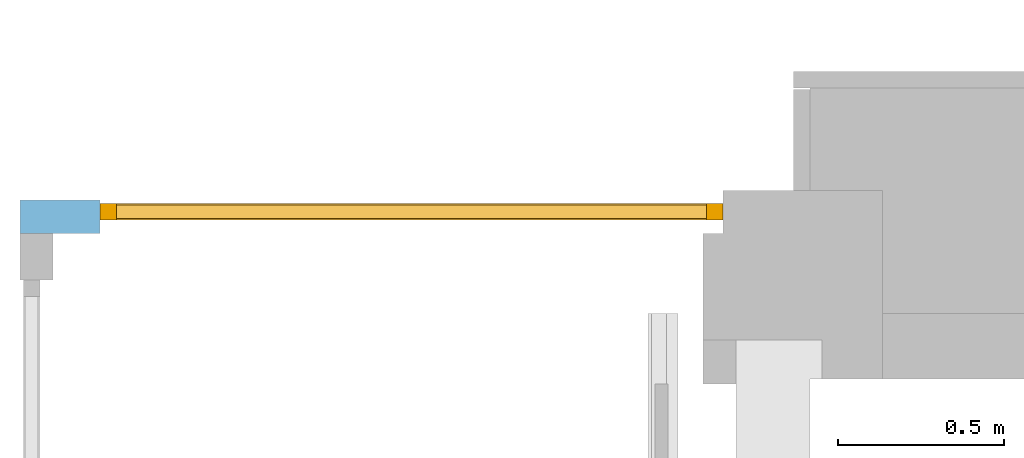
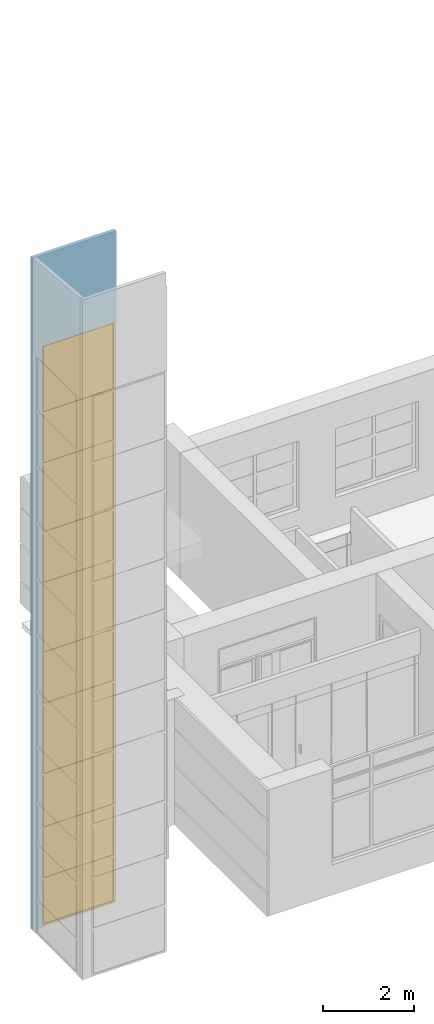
# One storey, part 61 of 66: 1 window, 2 openings, plus 1 element that does not belong to this part.
"""IFC2X3 building model written with IfcOpenShell, lengths in millimetres."""

from ifc_helpers import new_model, entity, si_unit, converted_unit, derived_unit, direction, frame, frame_2d, origin, place, context, subcontext, project, spatial, rectangle, extrude, face_set, faceted_brep, surface_model, source, transform, mapped, material, material_list, layer, layer_set, layer_usage, type_object, type_shapes, element, fill, save


model = new_model("IFC2X3")

# Units and contexts
model_context = context("Model", 3, precision=0.01, world=origin(), true_north=direction((6.12303176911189e-17, 1.0)))
body_context = subcontext(model_context, "Body", "Model", "MODEL_VIEW")
ifc_project = project(units=[si_unit("LENGTHUNIT", "METRE", prefix="MILLI"), si_unit("AREAUNIT", "SQUARE_METRE"), si_unit("VOLUMEUNIT", "CUBIC_METRE"), converted_unit("PLANEANGLEUNIT", "DEGREE", entity("IfcRatioMeasure", 0.0174532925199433), si_unit("PLANEANGLEUNIT", "RADIAN"), dimensions=[0, 0, 0, 0, 0, 0, 0]), si_unit("MASSUNIT", "GRAM", prefix="KILO"), derived_unit("MASSDENSITYUNIT", [(si_unit("MASSUNIT", "GRAM", prefix="KILO"), 1), (si_unit("LENGTHUNIT", "METRE"), -3)]), si_unit("TIMEUNIT", "SECOND"), si_unit("FREQUENCYUNIT", "HERTZ"), si_unit("THERMODYNAMICTEMPERATUREUNIT", "DEGREE_CELSIUS"), derived_unit("THERMALTRANSMITTANCEUNIT", [(si_unit("MASSUNIT", "GRAM", prefix="KILO"), 1), (si_unit("THERMODYNAMICTEMPERATUREUNIT", "KELVIN"), -1), (si_unit("TIMEUNIT", "SECOND"), -3)]), derived_unit("VOLUMETRICFLOWRATEUNIT", [(si_unit("LENGTHUNIT", "METRE"), 3), (si_unit("TIMEUNIT", "SECOND"), -1)]), si_unit("ELECTRICCURRENTUNIT", "AMPERE"), si_unit("ELECTRICVOLTAGEUNIT", "VOLT"), si_unit("POWERUNIT", "WATT"), si_unit("FORCEUNIT", "NEWTON", prefix="KILO"), si_unit("ILLUMINANCEUNIT", "LUX"), si_unit("LUMINOUSFLUXUNIT", "LUMEN"), si_unit("LUMINOUSINTENSITYUNIT", "CANDELA"), derived_unit("USERDEFINED", [(si_unit("MASSUNIT", "GRAM", prefix="KILO"), -1), (si_unit("LENGTHUNIT", "METRE"), -2), (si_unit("TIMEUNIT", "SECOND"), 3), (si_unit("LUMINOUSFLUXUNIT", "LUMEN"), 1)]), derived_unit("LINEARVELOCITYUNIT", [(si_unit("LENGTHUNIT", "METRE"), 1), (si_unit("TIMEUNIT", "SECOND"), -1)]), si_unit("PRESSUREUNIT", "PASCAL"), derived_unit("USERDEFINED", [(si_unit("LENGTHUNIT", "METRE"), -2), (si_unit("MASSUNIT", "GRAM", prefix="KILO"), 1), (si_unit("TIMEUNIT", "SECOND"), -2)])], contexts=[model_context])

# Site, building, storey
site_placement = place(None, frame((-151.875543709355, 2715.0, 0.0)))
site = spatial("IfcSite", under=ifc_project, at=site_placement, Name="Surface", CompositionType="ELEMENT")
building_placement = place(site_placement, origin())
building = spatial("IfcBuilding", under=site, at=building_placement, CompositionType="ELEMENT")
storey_placement = place(building_placement, frame((0.0, 0.0, 3350.0)))
storey = spatial("IfcBuildingStorey", under=building, at=storey_placement, Name="2 korrus", CompositionType="ELEMENT", Elevation=3350.00000000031)

# Wall, openings, window
ifc_material_1 = material(Name="Lifti sein_hall")
ifc_layer = layer(ifc_material_1, 100.0)
ifc_layer_set = layer_set([ifc_layer], Name="Basic Wall:ol.olev liftišahti sein")
ifc_layer_usage = layer_usage(ifc_layer_set, "AXIS2", "NEGATIVE", 50.0)
wall_type = type_object("IfcWallType", Name="Basic Wall:ol.olev liftišahti sein", PredefinedType="STANDARD", material=ifc_layer_set)
wall_placement = place(storey_placement, frame((-2600.1244545, 6301.05917364, -3350.0)))
wall = element("IfcWallStandardCase", 1, at=wall_placement, inside=storey, type_object=wall_type, material=ifc_layer_usage, Name="SEIN - 008", ObjectType="Basic Wall:ol.olev liftišahti sein", context=body_context, shape_type="SweptSolid", body=[
    extrude(rectangle(XDim=2118.24107149, YDim=99.9999999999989, at=frame_2d((1059.120535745, 0.0), x_axis=(-1.0, 0.0))), origin(), (0.0, 0.0, 1.0), 18022.9633874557),
])
opening_1_placement = place(wall_placement, frame((0.0, -60.0, 18013.046021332)))
element("IfcOpeningElement", 2, at=opening_1_placement, cuts=wall, Name="SEIN - 008", ObjectType="Opening", context=body_context, shape_type="Brep", body=[
    faceted_brep([(2600.01, 0.0, 18835.862710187), (2600.01, 120.0, 18825.0437653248), (0.0, 120.0, 18825.0437653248), (0.0, 0.0, 18835.862710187), (2600.01, 0.0, 10.8189448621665), (0.0, 0.0, 10.8189448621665), (0.0, 120.0, 0.0), (2600.01, 120.0, 0.0)], [[[0, 1, 2, 3]], [[4, 5, 6, 7]], [[4, 7, 1, 0]], [[7, 6, 2, 1]], [[6, 5, 3, 2]], [[5, 4, 0, 3]]]),
])
opening_2_placement = place(wall_placement, frame((2600.1244545, -6301.05917364, 3350.0)))
opening_2 = element("IfcOpeningElement", 3, at=opening_2_placement, cuts=wall, Name="SEIN - 008", ObjectType="Opening", context=body_context, shape_type="SweptSolid", body=[
    extrude(rectangle(XDim=15579.7043135, YDim=1877.86021211, at=frame_2d((0.0, 0.0), x_axis=(0.0, 1.0))), frame((-1420.813489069, 6149.15917364, 4439.85215673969), z_axis=(0.0, 1.0, 0.0), x_axis=(1.0, 0.0, 0.0)), (0.0, 0.0, 1.0), 303.0),
])
ifc_material_2 = material(Name="Paint - Dark Gray")
ifc_material_3 = material(Name="Glass - Clear Fast")
ifc_material_list_1 = material_list([ifc_material_2, ifc_material_3])
ifc_material_list_2 = material_list([ifc_material_2, ifc_material_3])
window_style = type_object("IfcWindowStyle", Name="AKEN - 003", ConstructionType="NOTDEFINED", OperationType="NOTDEFINED", ParameterTakesPrecedence=False, Sizeable=False, material=ifc_material_list_2)
shared_shape = source(origin(), body_context, "Body", "SurfaceModel", [
    surface_model("IfcFaceBasedSurfaceModel", [(1827.860212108, -161.1, 15529.70431351), (1877.860212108, -161.1, 15529.70431351), (1877.860212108, -111.1, 15529.70431351), (1827.860212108, -111.1, 15529.70431351), (1827.860212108, -161.1, 15529.70431351), (1827.860212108, -161.1, 50.0), (1877.860212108, -161.1, 50.0), (1877.860212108, -161.1, 15529.70431351), (1877.860212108, -161.1, 15529.70431351), (1877.860212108, -161.1, 50.0), (1877.860212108, -111.1, 50.0), (1877.860212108, -111.1, 15529.70431351), (1827.860212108, -111.1, 15529.70431351), (1877.860212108, -111.1, 15529.70431351), (1877.860212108, -111.1, 50.0), (1827.860212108, -111.1, 50.0), (1827.860212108, -161.1, 50.0), (1827.860212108, -161.1, 15529.70431351), (1827.860212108, -111.1, 15529.70431351), (1827.860212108, -111.1, 50.0), (1877.860212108, -161.1, 50.0), (1827.860212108, -161.1, 50.0), (1827.860212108, -111.1, 50.0), (1877.860212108, -111.1, 50.0), (50.0, -161.1, 50.0), (-1.99992022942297e-09, -161.1, 50.0), (-1.99992022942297e-09, -111.1, 50.0), (50.0, -111.1, 50.0), (50.0, -161.1, 50.0), (50.0, -161.1, 15529.70431351), (-1.99992022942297e-09, -161.1, 15529.70431351), (-1.99992022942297e-09, -161.1, 50.0), (-1.99992022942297e-09, -161.1, 50.0), (-1.99992022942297e-09, -161.1, 15529.70431351), (-1.99992022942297e-09, -111.1, 15529.70431351), (-1.99992022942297e-09, -111.1, 50.0), (50.0, -111.1, 50.0), (-1.99992022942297e-09, -111.1, 50.0), (-1.99992022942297e-09, -111.1, 15529.70431351), (50.0, -111.1, 15529.70431351), (50.0, -161.1, 15529.70431351), (50.0, -161.1, 50.0), (50.0, -111.1, 50.0), (50.0, -111.1, 15529.70431351), (-1.99992022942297e-09, -161.1, 15529.70431351), (50.0, -161.1, 15529.70431351), (50.0, -111.1, 15529.70431351), (-1.99992022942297e-09, -111.1, 15529.70431351), (1827.860212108, -161.1, 50.0), (1877.860212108, -161.1, 50.0), (1877.860212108, -111.1, 50.0), (1827.860212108, -111.1, 50.0), (1827.860212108, -161.1, 50.0), (50.0, -161.1, 50.0), (-1.99992022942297e-09, -161.1, 50.0), (-1.99992022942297e-09, -161.1, 9.99989424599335e-09), (1877.860212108, -161.1, 9.99989424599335e-09), (1877.860212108, -161.1, 50.0), (1877.860212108, -161.1, 50.0), (1877.860212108, -161.1, 9.99989424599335e-09), (1877.860212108, -111.1, 9.99989424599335e-09), (1877.860212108, -111.1, 50.0), (1827.860212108, -111.1, 50.0), (1877.860212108, -111.1, 50.0), (1877.860212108, -111.1, 9.99989424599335e-09), (-1.99992022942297e-09, -111.1, 9.99989424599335e-09), (-1.99992022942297e-09, -111.1, 50.0), (50.0, -111.1, 50.0), (50.0, -161.1, 50.0), (1827.860212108, -161.1, 50.0), (1827.860212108, -111.1, 50.0), (50.0, -111.1, 50.0), (-1.99992022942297e-09, -161.1, 50.0), (50.0, -161.1, 50.0), (50.0, -111.1, 50.0), (-1.99992022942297e-09, -111.1, 50.0), (-1.99992022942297e-09, -161.1, 9.99989424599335e-09), (-1.99992022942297e-09, -161.1, 50.0), (-1.99992022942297e-09, -111.1, 50.0), (-1.99992022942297e-09, -111.1, 9.99989424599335e-09), (1877.860212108, -161.1, 9.99989424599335e-09), (-1.99992022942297e-09, -161.1, 9.99989424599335e-09), (-1.99992022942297e-09, -111.1, 9.99989424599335e-09), (1877.860212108, -111.1, 9.99989424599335e-09), (50.0, -161.1, 15529.70431351), (-1.99992022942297e-09, -161.1, 15529.70431351), (-1.99992022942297e-09, -111.1, 15529.70431351), (50.0, -111.1, 15529.70431351), (50.0, -161.1, 15529.70431351), (1827.860212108, -161.1, 15529.70431351), (1877.860212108, -161.1, 15529.70431351), (1877.860212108, -161.1, 15579.70431351), (-1.99992022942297e-09, -161.1, 15579.70431351), (-1.99992022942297e-09, -161.1, 15529.70431351), (-1.99992022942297e-09, -161.1, 15529.70431351), (-1.99992022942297e-09, -161.1, 15579.70431351), (-1.99992022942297e-09, -111.1, 15579.70431351), (-1.99992022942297e-09, -111.1, 15529.70431351), (50.0, -111.1, 15529.70431351), (-1.99992022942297e-09, -111.1, 15529.70431351), (-1.99992022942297e-09, -111.1, 15579.70431351), (1877.860212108, -111.1, 15579.70431351), (1877.860212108, -111.1, 15529.70431351), (1827.860212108, -111.1, 15529.70431351), (1827.860212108, -161.1, 15529.70431351), (50.0, -161.1, 15529.70431351), (50.0, -111.1, 15529.70431351), (1827.860212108, -111.1, 15529.70431351), (1877.860212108, -161.1, 15529.70431351), (1827.860212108, -161.1, 15529.70431351), (1827.860212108, -111.1, 15529.70431351), (1877.860212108, -111.1, 15529.70431351), (1877.860212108, -161.1, 15579.70431351), (1877.860212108, -161.1, 15529.70431351), (1877.860212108, -111.1, 15529.70431351), (1877.860212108, -111.1, 15579.70431351), (-1.99992022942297e-09, -161.1, 15579.70431351), (1877.860212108, -161.1, 15579.70431351), (1877.860212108, -111.1, 15579.70431351), (-1.99992022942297e-09, -111.1, 15579.70431351), (1827.860212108, -156.1, 1212.9583059), (50.0, -156.1, 1212.9583059), (50.0, -116.1, 1212.9583059), (1827.860212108, -116.1, 1212.9583059), (1827.860212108, -156.1, 1212.9583059), (1827.860212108, -156.1, 1282.9583059), (50.0, -156.1, 1282.9583059), (50.0, -156.1, 1212.9583059), (50.0, -156.1, 1212.9583059), (50.0, -156.1, 1282.9583059), (50.0, -116.1, 1282.9583059), (50.0, -116.1, 1212.9583059), (1827.860212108, -116.1, 1212.9583059), (50.0, -116.1, 1212.9583059), (50.0, -116.1, 1282.9583059), (1827.860212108, -116.1, 1282.9583059), (1827.860212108, -156.1, 1282.9583059), (1827.860212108, -156.1, 1212.9583059), (1827.860212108, -116.1, 1212.9583059), (1827.860212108, -116.1, 1282.9583059), (50.0, -156.1, 1282.9583059), (1827.860212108, -156.1, 1282.9583059), (1827.860212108, -116.1, 1282.9583059), (50.0, -116.1, 1282.9583059), (1827.860212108, -156.1, 2574.54152724), (50.0, -156.1, 2574.54152724), (50.0, -116.1, 2574.54152724), (1827.860212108, -116.1, 2574.54152724), (1827.860212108, -156.1, 2574.54152724), (1827.860212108, -156.1, 2644.54152724), (50.0, -156.1, 2644.54152724), (50.0, -156.1, 2574.54152724), (50.0, -156.1, 2574.54152724), (50.0, -156.1, 2644.54152724), (50.0, -116.1, 2644.54152724), (50.0, -116.1, 2574.54152724), (1827.860212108, -116.1, 2574.54152724), (50.0, -116.1, 2574.54152724), (50.0, -116.1, 2644.54152724), (1827.860212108, -116.1, 2644.54152724), (1827.860212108, -156.1, 2644.54152724), (1827.860212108, -156.1, 2574.54152724), (1827.860212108, -116.1, 2574.54152724), (1827.860212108, -116.1, 2644.54152724), (50.0, -156.1, 2644.54152724), (1827.860212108, -156.1, 2644.54152724), (1827.860212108, -116.1, 2644.54152724), (50.0, -116.1, 2644.54152724), (1827.860212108, -156.1, 4006.69658459), (50.0, -156.1, 4006.69658459), (50.0, -116.1, 4006.69658459), (1827.860212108, -116.1, 4006.69658459), (1827.860212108, -156.1, 4006.69658459), (1827.860212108, -156.1, 4076.69658459), (50.0, -156.1, 4076.69658459), (50.0, -156.1, 4006.69658459), (50.0, -156.1, 4006.69658459), (50.0, -156.1, 4076.69658459), (50.0, -116.1, 4076.69658459), (50.0, -116.1, 4006.69658459), (1827.860212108, -116.1, 4006.69658459), (50.0, -116.1, 4006.69658459), (50.0, -116.1, 4076.69658459), (1827.860212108, -116.1, 4076.69658459), (1827.860212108, -156.1, 4076.69658459), (1827.860212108, -156.1, 4006.69658459), (1827.860212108, -116.1, 4006.69658459), (1827.860212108, -116.1, 4076.69658459), (50.0, -156.1, 4076.69658459), (1827.860212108, -156.1, 4076.69658459), (1827.860212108, -116.1, 4076.69658459), (50.0, -116.1, 4076.69658459), (1827.860212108, -156.1, 5885.12166978), (50.0, -156.1, 5885.12166978), (50.0, -116.1, 5885.12166978), (1827.860212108, -116.1, 5885.12166978), (1827.860212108, -156.1, 5885.12166978), (1827.860212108, -156.1, 5955.12166978), (50.0, -156.1, 5955.12166978), (50.0, -156.1, 5885.12166978), (50.0, -156.1, 5885.12166978), (50.0, -156.1, 5955.12166978), (50.0, -116.1, 5955.12166978), (50.0, -116.1, 5885.12166978), (1827.860212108, -116.1, 5885.12166978), (50.0, -116.1, 5885.12166978), (50.0, -116.1, 5955.12166978), (1827.860212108, -116.1, 5955.12166978), (1827.860212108, -156.1, 5955.12166978), (1827.860212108, -156.1, 5885.12166978), (1827.860212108, -116.1, 5885.12166978), (1827.860212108, -116.1, 5955.12166978), (50.0, -156.1, 5955.12166978), (1827.860212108, -156.1, 5955.12166978), (1827.860212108, -116.1, 5955.12166978), (50.0, -116.1, 5955.12166978), (1827.860212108, -156.1, 7258.14809749), (50.0, -156.1, 7258.14809749), (50.0, -116.1, 7258.14809749), (1827.860212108, -116.1, 7258.14809749), (1827.860212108, -156.1, 7258.14809749), (1827.860212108, -156.1, 7328.14809749), (50.0, -156.1, 7328.14809749), (50.0, -156.1, 7258.14809749), (50.0, -156.1, 7258.14809749), (50.0, -156.1, 7328.14809749), (50.0, -116.1, 7328.14809749), (50.0, -116.1, 7258.14809749), (1827.860212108, -116.1, 7258.14809749), (50.0, -116.1, 7258.14809749), (50.0, -116.1, 7328.14809749), (1827.860212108, -116.1, 7328.14809749), (1827.860212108, -156.1, 7328.14809749), (1827.860212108, -156.1, 7258.14809749), (1827.860212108, -116.1, 7258.14809749), (1827.860212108, -116.1, 7328.14809749), (50.0, -156.1, 7328.14809749), (1827.860212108, -156.1, 7328.14809749), (1827.860212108, -116.1, 7328.14809749), (50.0, -116.1, 7328.14809749), (1827.860212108, -156.1, 9125.53915025), (50.0, -156.1, 9125.53915025), (50.0, -116.1, 9125.53915025), (1827.860212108, -116.1, 9125.53915025), (1827.860212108, -156.1, 9125.53915025), (1827.860212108, -156.1, 9195.53915025), (50.0, -156.1, 9195.53915025), (50.0, -156.1, 9125.53915025), (50.0, -156.1, 9125.53915025), (50.0, -156.1, 9195.53915025), (50.0, -116.1, 9195.53915025), (50.0, -116.1, 9125.53915025), (1827.860212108, -116.1, 9125.53915025), (50.0, -116.1, 9125.53915025), (50.0, -116.1, 9195.53915025), (1827.860212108, -116.1, 9195.53915025), (1827.860212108, -156.1, 9195.53915025), (1827.860212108, -156.1, 9125.53915025), (1827.860212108, -116.1, 9125.53915025), (1827.860212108, -116.1, 9195.53915025), (50.0, -156.1, 9195.53915025), (1827.860212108, -156.1, 9195.53915025), (1827.860212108, -116.1, 9195.53915025), (50.0, -116.1, 9195.53915025), (1827.860212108, -156.1, 10489.27816391), (50.0, -156.1, 10489.27816391), (50.0, -116.1, 10489.27816391), (1827.860212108, -116.1, 10489.27816391), (1827.860212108, -156.1, 10489.27816391), (1827.860212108, -156.1, 10559.27816391), (50.0, -156.1, 10559.27816391), (50.0, -156.1, 10489.27816391), (50.0, -156.1, 10489.27816391), (50.0, -156.1, 10559.27816391), (50.0, -116.1, 10559.27816391), (50.0, -116.1, 10489.27816391), (1827.860212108, -116.1, 10489.27816391), (50.0, -116.1, 10489.27816391), (50.0, -116.1, 10559.27816391), (1827.860212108, -116.1, 10559.27816391), (1827.860212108, -156.1, 10559.27816391), (1827.860212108, -156.1, 10489.27816391), (1827.860212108, -116.1, 10489.27816391), (1827.860212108, -116.1, 10559.27816391), (50.0, -156.1, 10559.27816391), (1827.860212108, -156.1, 10559.27816391), (1827.860212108, -116.1, 10559.27816391), (50.0, -116.1, 10559.27816391), (1827.860212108, -156.1, 12333.24898861), (50.0, -156.1, 12333.24898861), (50.0, -116.1, 12333.24898861), (1827.860212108, -116.1, 12333.24898861), (1827.860212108, -156.1, 12333.24898861), (1827.860212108, -156.1, 12403.24898861), (50.0, -156.1, 12403.24898861), (50.0, -156.1, 12333.24898861), (50.0, -156.1, 12333.24898861), (50.0, -156.1, 12403.24898861), (50.0, -116.1, 12403.24898861), (50.0, -116.1, 12333.24898861), (1827.860212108, -116.1, 12333.24898861), (50.0, -116.1, 12333.24898861), (50.0, -116.1, 12403.24898861), (1827.860212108, -116.1, 12403.24898861), (1827.860212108, -156.1, 12403.24898861), (1827.860212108, -156.1, 12333.24898861), (1827.860212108, -116.1, 12333.24898861), (1827.860212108, -116.1, 12403.24898861), (50.0, -156.1, 12403.24898861), (1827.860212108, -156.1, 12403.24898861), (1827.860212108, -116.1, 12403.24898861), (50.0, -116.1, 12403.24898861), (1827.860212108, -156.1, 13705.33329911), (50.0, -156.1, 13705.33329911), (50.0, -116.1, 13705.33329911), (1827.860212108, -116.1, 13705.33329911), (1827.860212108, -156.1, 13705.33329911), (1827.860212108, -156.1, 13775.33329911), (50.0, -156.1, 13775.33329911), (50.0, -156.1, 13705.33329911), (50.0, -156.1, 13705.33329911), (50.0, -156.1, 13775.33329911), (50.0, -116.1, 13775.33329911), (50.0, -116.1, 13705.33329911), (1827.860212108, -116.1, 13705.33329911), (50.0, -116.1, 13705.33329911), (50.0, -116.1, 13775.33329911), (1827.860212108, -116.1, 13775.33329911), (1827.860212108, -156.1, 13775.33329911), (1827.860212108, -156.1, 13705.33329911), (1827.860212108, -116.1, 13705.33329911), (1827.860212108, -116.1, 13775.33329911), (50.0, -156.1, 13775.33329911), (1827.860212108, -156.1, 13775.33329911), (1827.860212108, -116.1, 13775.33329911), (50.0, -116.1, 13775.33329911)], [face_set([[[0, 1, 2, 3]]]), face_set([[[4, 5, 6, 7]]]), face_set([[[8, 9, 10, 11]]]), face_set([[[12, 13, 14, 15]]]), face_set([[[16, 17, 18, 19]]]), face_set([[[20, 21, 22, 23]]]), face_set([[[24, 25, 26, 27]]]), face_set([[[28, 29, 30, 31]]]), face_set([[[32, 33, 34, 35]]]), face_set([[[36, 37, 38, 39]]]), face_set([[[40, 41, 42, 43]]]), face_set([[[44, 45, 46, 47]]]), face_set([[[48, 49, 50, 51]]]), face_set([[[52, 53, 54, 55, 56, 57]]]), face_set([[[58, 59, 60, 61]]]), face_set([[[62, 63, 64, 65, 66, 67]]]), face_set([[[68, 69, 70, 71]]]), face_set([[[72, 73, 74, 75]]]), face_set([[[76, 77, 78, 79]]]), face_set([[[80, 81, 82, 83]]]), face_set([[[84, 85, 86, 87]]]), face_set([[[88, 89, 90, 91, 92, 93]]]), face_set([[[94, 95, 96, 97]]]), face_set([[[98, 99, 100, 101, 102, 103]]]), face_set([[[104, 105, 106, 107]]]), face_set([[[108, 109, 110, 111]]]), face_set([[[112, 113, 114, 115]]]), face_set([[[116, 117, 118, 119]]]), face_set([[[120, 121, 122, 123]]]), face_set([[[124, 125, 126, 127]]]), face_set([[[128, 129, 130, 131]]]), face_set([[[132, 133, 134, 135]]]), face_set([[[136, 137, 138, 139]]]), face_set([[[140, 141, 142, 143]]]), face_set([[[144, 145, 146, 147]]]), face_set([[[148, 149, 150, 151]]]), face_set([[[152, 153, 154, 155]]]), face_set([[[156, 157, 158, 159]]]), face_set([[[160, 161, 162, 163]]]), face_set([[[164, 165, 166, 167]]]), face_set([[[168, 169, 170, 171]]]), face_set([[[172, 173, 174, 175]]]), face_set([[[176, 177, 178, 179]]]), face_set([[[180, 181, 182, 183]]]), face_set([[[184, 185, 186, 187]]]), face_set([[[188, 189, 190, 191]]]), face_set([[[192, 193, 194, 195]]]), face_set([[[196, 197, 198, 199]]]), face_set([[[200, 201, 202, 203]]]), face_set([[[204, 205, 206, 207]]]), face_set([[[208, 209, 210, 211]]]), face_set([[[212, 213, 214, 215]]]), face_set([[[216, 217, 218, 219]]]), face_set([[[220, 221, 222, 223]]]), face_set([[[224, 225, 226, 227]]]), face_set([[[228, 229, 230, 231]]]), face_set([[[232, 233, 234, 235]]]), face_set([[[236, 237, 238, 239]]]), face_set([[[240, 241, 242, 243]]]), face_set([[[244, 245, 246, 247]]]), face_set([[[248, 249, 250, 251]]]), face_set([[[252, 253, 254, 255]]]), face_set([[[256, 257, 258, 259]]]), face_set([[[260, 261, 262, 263]]]), face_set([[[264, 265, 266, 267]]]), face_set([[[268, 269, 270, 271]]]), face_set([[[272, 273, 274, 275]]]), face_set([[[276, 277, 278, 279]]]), face_set([[[280, 281, 282, 283]]]), face_set([[[284, 285, 286, 287]]]), face_set([[[288, 289, 290, 291]]]), face_set([[[292, 293, 294, 295]]]), face_set([[[296, 297, 298, 299]]]), face_set([[[300, 301, 302, 303]]]), face_set([[[304, 305, 306, 307]]]), face_set([[[308, 309, 310, 311]]]), face_set([[[312, 313, 314, 315]]]), face_set([[[316, 317, 318, 319]]]), face_set([[[320, 321, 322, 323]]]), face_set([[[324, 325, 326, 327]]]), face_set([[[328, 329, 330, 331]]]), face_set([[[332, 333, 334, 335]]])]),
    surface_model("IfcFaceBasedSurfaceModel", [(1827.860212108, -146.1, 50.0), (1827.860212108, -146.1, 15529.70431351), (50.0, -146.1, 15529.70431351), (50.0, -146.1, 50.0), (1827.860212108, -126.1, 50.0), (50.0, -126.1, 50.0), (50.0, -126.1, 15529.70431351), (1827.860212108, -126.1, 15529.70431351)], [face_set([[[0, 1, 2, 3]]]), face_set([[[4, 5, 6, 7]]])]),
])
type_shapes(window_style, [shared_shape])
window_placement = place(opening_2_placement, frame((-2359.743595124, 6452.15917364, -3350.0)))
window = element("IfcWindow", 4, at=window_placement, inside=storey, type_object=window_style, material=ifc_material_list_1, Name="AKEN - 003 68899:AKEN - 003 68899", ObjectType="AKEN - 003 68899", OverallHeight=15579.7043135, OverallWidth=1877.86021211, context=body_context, shape_type="MappedRepresentation", body=[
    mapped(shared_shape, transform((0.0, 0.0, 0.0), scale=1.0)),
])
fill(opening_2, window)

save(model, "model.ifc")
